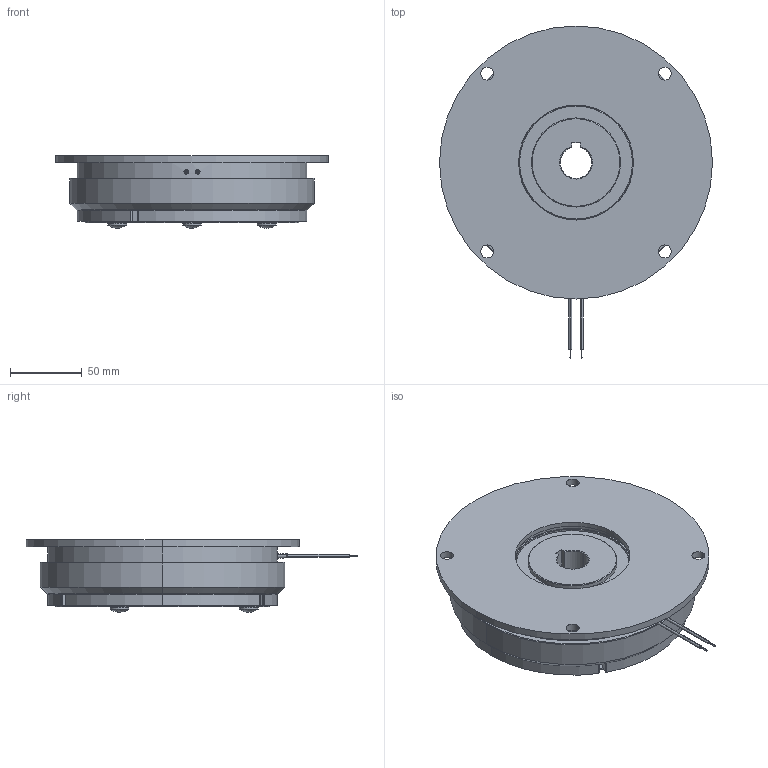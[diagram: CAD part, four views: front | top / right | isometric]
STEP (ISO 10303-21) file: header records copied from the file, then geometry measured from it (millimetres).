
FILE_DESCRIPTION (( 'STEP AP214' ), '1' );
FILE_NAME ('dr_bk_1003-110_mu.STEP', '2021-12-01T08:49:50', ( '' ), ( '' ), 'SwSTEP 2.0', 'SolidWorks 2019', '' );
FILE_SCHEMA (( 'AUTOMOTIVE_DESIGN' ));
Length unit declared in the file: millimetre
Products named in the file (8): 10069120_000; 10068863_000; dr_bk_1003-110_mu; 10068865_000; 10068864_000_Einbaul„nge 5,6mm; 10069133_000; 10068866_000; 10068862_000
Assembly tree (11 placements, depth 3):
  dr_bk_1003-110_mu
    10069120_000
    10069133_000
    10068866_000
      10068863_000
      10068862_000
      10068864_000_Einbaul„nge 5,6mm  x3
      10068865_000  x3
Bounding box: 190 x 231 x 50.5 mm (x, y, z)
Volume: 895701.5 mm3; surface area: 198786.1 mm2
Topology: 12 solids, 12 shells, 268 faces, 621 edges, 384 vertices
Faces by surface type: cylinder 142, cone 58, plane 46, torus 16, sphere 6
Entity records: 8179 total; most frequent: CARTESIAN_POINT 1264, DIRECTION 1259, ORIENTED_EDGE 1022, AXIS2_PLACEMENT_3D 527, EDGE_CURVE 511, VERTEX_POINT 324, CIRCLE 294, EDGE_LOOP 275
